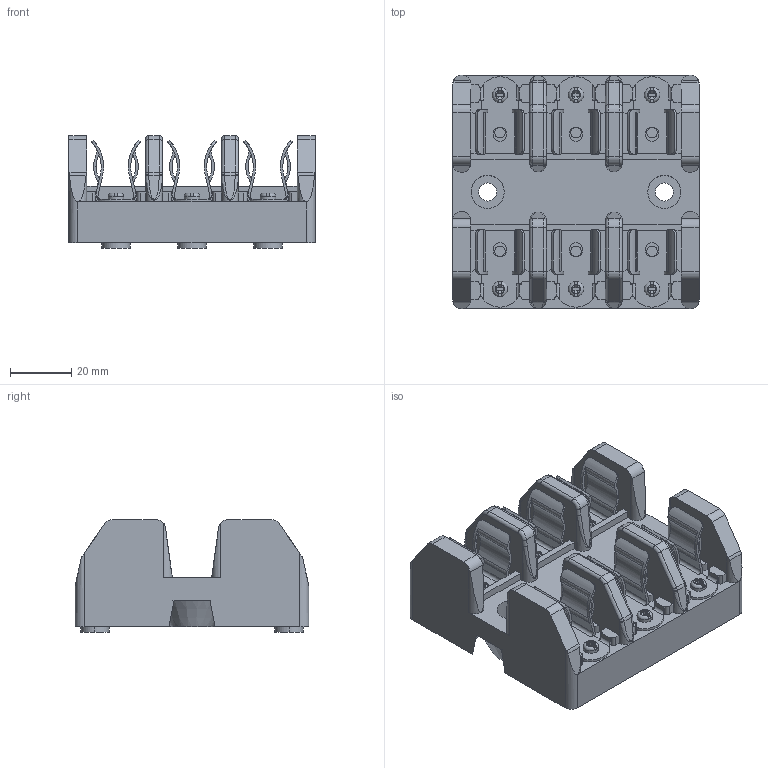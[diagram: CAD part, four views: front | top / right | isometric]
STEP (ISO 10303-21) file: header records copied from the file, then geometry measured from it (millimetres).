
FILE_DESCRIPTION((''),'2;1');
FILE_NAME('ASM0001_ASM','2016-06-17T',('Administrator'),(''),'PRO/ENGINEER BY PARAMETRIC TECHNOLOGY CORPORATION, 2012360','PRO/ENGINEER BY PARAMETRIC TECHNOLOGY CORPORATION, 2012360','');
FILE_SCHEMA(('CONFIG_CONTROL_DESIGN'));
Products named in the file (1): ASM0001_ASM
Bounding box: 80.2 x 76 x 36.6 mm (x, y, z)
Volume: 101383.5 mm3; surface area: 41784.7 mm2
Topology: 1 solids, 7 shells, 1128 faces, 3162 edges, 2046 vertices
Faces by surface type: plane 502, cylinder 494, bspline 70, torus 36, cone 20, extrusion 6
Entity records: 49211 total; most frequent: CARTESIAN_POINT 20341, ORIENTED_EDGE 6324, DIRECTION 5778, EDGE_CURVE 3162, VERTEX_POINT 2046, AXIS2_PLACEMENT_3D 2042, VECTOR 1694, LINE 1688
